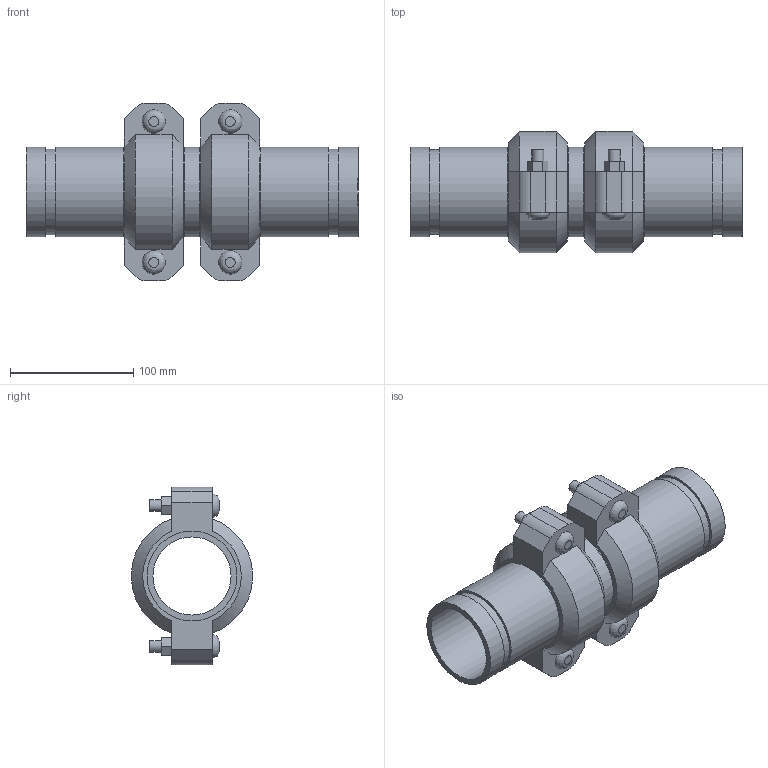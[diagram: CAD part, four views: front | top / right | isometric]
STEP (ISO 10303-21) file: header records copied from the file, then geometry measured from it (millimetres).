
FILE_DESCRIPTION(/* description */ ('VIC EXPANSION JOINT 2 COUPLINGS EXPANDED STYLE 155 (OGS)','CAx-IF Rec.Pracs.---Representation and Presentation of Product Manufacturing Information (PMI)---4.0---2014-10-13'),/* implementation_level */ '2;1');
FILE_NAME(/* name */ 'C:\Users\kkamble\AppData\Roaming\Autodesk\ApplicationPlugins\Victaulic.Temp\A706\Victaulic_IPS_Expansion Joint_Expanded_2 Couplings_Style 155 (OGS)_2.5 (65).stp',/* time_stamp */ '2021-06-26T23:56:16+02:00',/* author */ ('kkamble'),/* organization */ ('Victaulic'),/* preprocessor_version */ 'ST-DEVELOPER v17.2',/* originating_system */ 'Autodesk Inventor 2019',/* authorisation */ '');
FILE_SCHEMA (('AP242_MANAGED_MODEL_BASED_3D_ENGINEERING_MIM_LF { 1 0 10303 442 1 1 4 }'));
Length unit declared in the file: inch
Products named in the file (4): 155-02.5; Nipple-02.5; Nipple-02.5_1; 075-02.5
Assembly tree (5 placements, depth 2):
  155-02.5
    Nipple-02.5  x2
    Nipple-02.5_1
    075-02.5  x2
Bounding box: 269.49 x 98.22 x 144.27 mm (x, y, z)
Volume: 683056.7 mm3; surface area: 213139.8 mm2
Topology: 5 solids, 9 shells, 150 faces, 356 edges, 252 vertices
Faces by surface type: plane 90, cylinder 48, cone 8, bspline 4
Full cylindrical faces by diameter (mm): 9.525 x8, 11.43 x4, 63.475 x3, 66.675 x2, 69.088 x6, 73.025 x13
Entity records: 2753 total; most frequent: CARTESIAN_POINT 489, DIRECTION 453, ORIENTED_EDGE 386, EDGE_CURVE 193, AXIS2_PLACEMENT_3D 180, VERTEX_POINT 138, EDGE_LOOP 107, LINE 93
